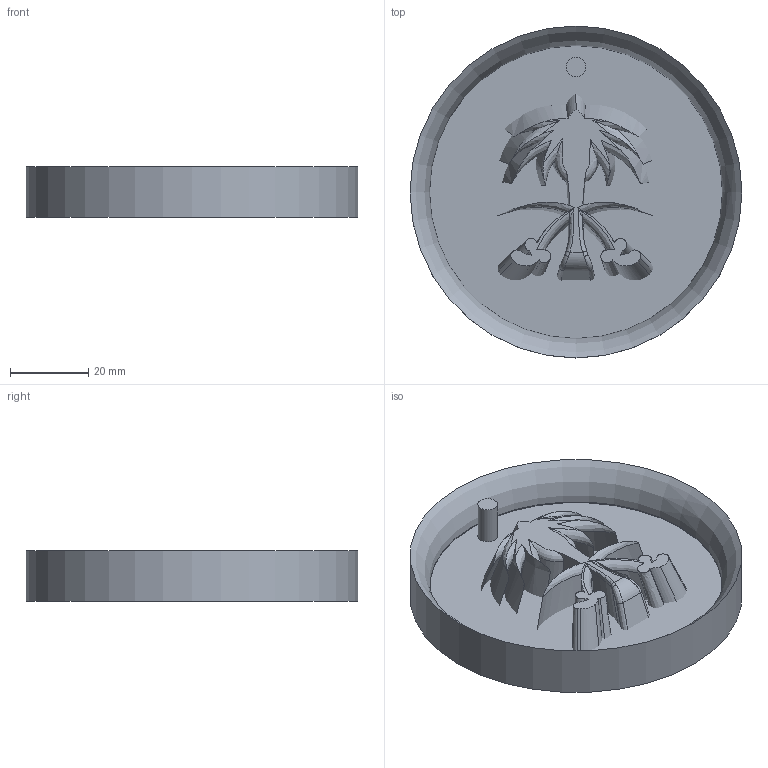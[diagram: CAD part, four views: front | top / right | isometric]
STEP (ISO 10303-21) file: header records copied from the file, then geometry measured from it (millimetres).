
FILE_DESCRIPTION( ( '' ), ' ' );
FILE_NAME( '/vol/tmp/translate-17981153288670086258/5d1b023e847f4e1753bfeac8.step', '2019-07-02T07:05:35', ( '' ), ( '' ), ' ', ' ', ' ' );
FILE_SCHEMA( ( 'AUTOMOTIVE_DESIGN { 1 0 10303 214 1 1 1 1 }' ) );
Length unit declared in the file: metre
Products named in the file (2): Part 2; Part 1
Bounding box: 85 x 85 x 13 mm (x, y, z)
Volume: 26216.9 mm3; surface area: 23642 mm2
Topology: 1 solids, 7 shells, 108 faces, 373 edges, 273 vertices
Faces by surface type: bspline 91, plane 12, cylinder 4, torus 1
Full cylindrical faces by diameter (mm): 5 x1, 75 x1, 85 x1
Entity records: 13530 total; most frequent: CARTESIAN_POINT 10411, ORIENTED_EDGE 710, EDGE_CURVE 355, B_SPLINE_CURVE_WITH_KNOTS 323, VERTEX_POINT 256, EDGE_LOOP 113, FACE_OUTER_BOUND 112, STYLED_ITEM 108
